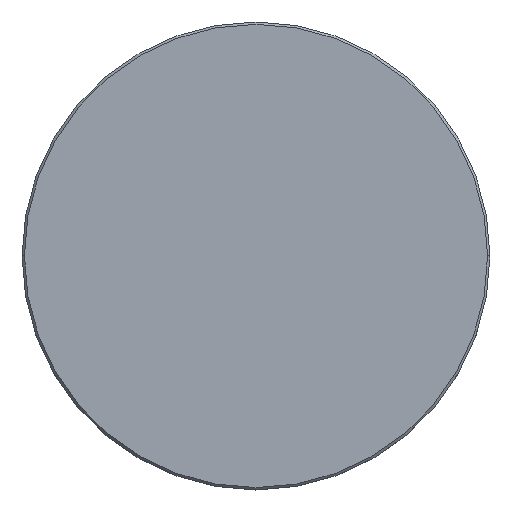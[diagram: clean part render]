
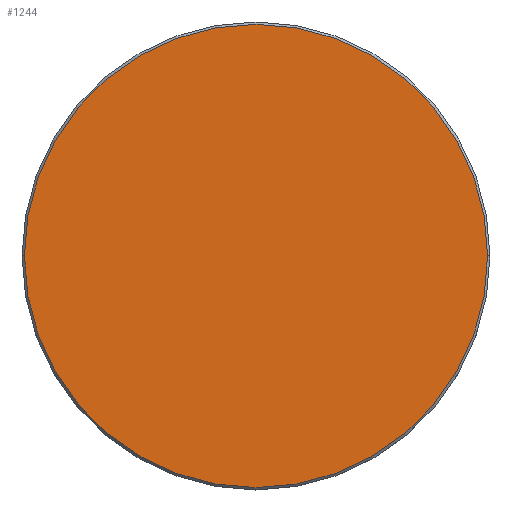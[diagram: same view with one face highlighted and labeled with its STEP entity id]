
A CAD part, top view. The second image highlights one B-rep face of the part: STEP entity #1244.
In plain terms, the highlighted planar face has unit normal (0, 0, 1).
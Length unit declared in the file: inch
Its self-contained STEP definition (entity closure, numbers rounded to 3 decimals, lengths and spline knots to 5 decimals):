
#460=CARTESIAN_POINT('',(0.,0.,0.));
#461=DIRECTION('',(0.,0.,1.));
#462=DIRECTION('',(1.,0.,0.));
#463=AXIS2_PLACEMENT_3D('',#460,#461,#462);
#465=CARTESIAN_POINT('',(0.,0.,0.));
#466=DIRECTION('',(0.,0.,1.));
#467=DIRECTION('',(-1.,0.,0.));
#468=AXIS2_PLACEMENT_3D('',#465,#466,#467);
#624=CARTESIAN_POINT('',(1.98,0.,0.));
#625=CARTESIAN_POINT('',(-1.98,0.,0.));
#626=VERTEX_POINT('',#624);
#627=VERTEX_POINT('',#625);
#1234=CARTESIAN_POINT('',(0.,0.,0.));
#1235=DIRECTION('',(0.,0.,-1.));
#1236=DIRECTION('',(-1.,0.,0.));
#1237=AXIS2_PLACEMENT_3D('',#1234,#1235,#1236);
#1238=PLANE('',#1237);
#1240=ORIENTED_EDGE('',*,*,#1239,.F.);
#1241=ORIENTED_EDGE('',*,*,#1224,.F.);
#1242=EDGE_LOOP('',(#1240,#1241));
#1243=FACE_OUTER_BOUND('',#1242,.F.);
#1244=ADVANCED_FACE('',(#1243),#1238,.F.);
#464=CIRCLE('',#463,1.98);
#469=CIRCLE('',#468,1.98);
#1224=EDGE_CURVE('',#627,#626,#469,.T.);
#1239=EDGE_CURVE('',#626,#627,#464,.T.);
